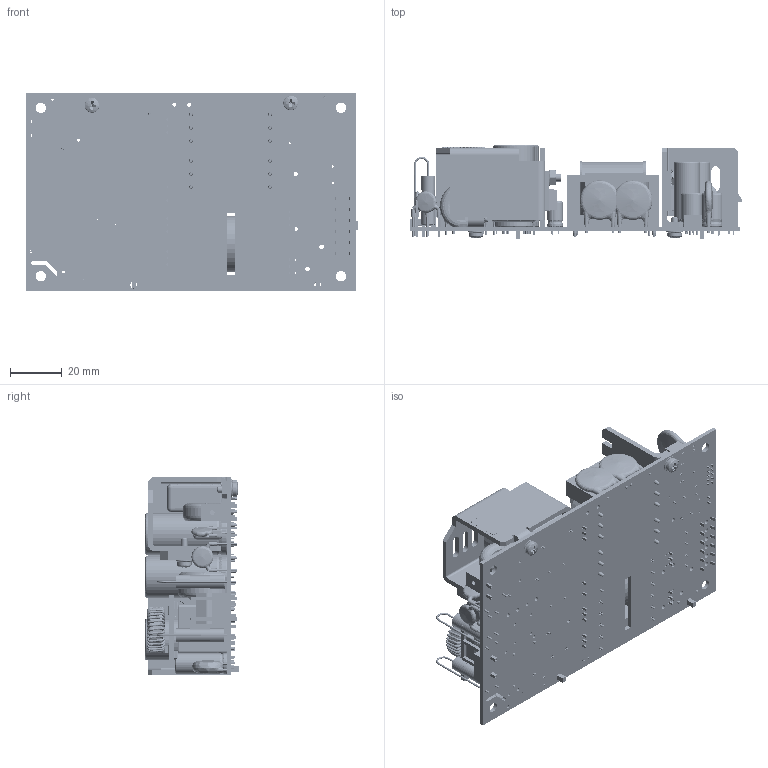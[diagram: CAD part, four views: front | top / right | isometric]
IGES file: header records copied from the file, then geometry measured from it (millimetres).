
Start section: SolidWorks IGES file using analytic representation for surfaces
Global section: file name: C:\odfb\OneDrive - XP Power\Proj 2018\GCS350 Series Step Files\Open Frame\GCS350PS12-15 Option (-J _Dual Row).IGS; native system: SolidWorks 2018; preprocessor: SolidWorks 2018; author: jpatel; date: 181112.104032; units: inch
Bounding box: 127.84 x 35.95 x 76.21 mm (x, y, z)
Surface area: 90683.5 mm2 (no closed solid volume)
Topology: 0 solids, 0 shells, 4409 faces, 40150 edges, 40068 vertices
Faces by surface type: bspline 3036, revolution 1373
